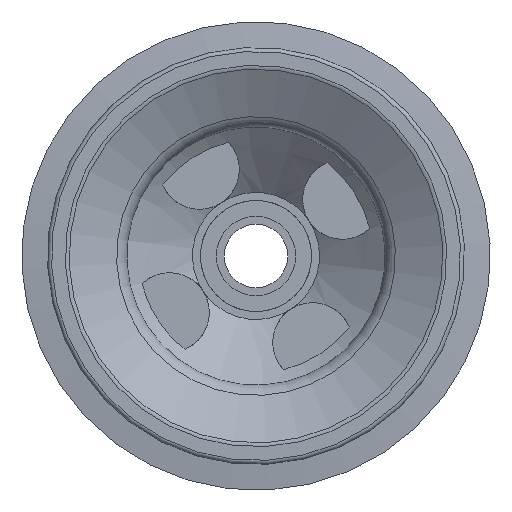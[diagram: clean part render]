
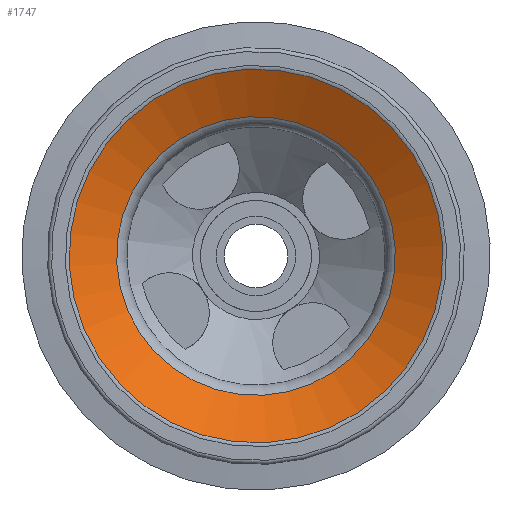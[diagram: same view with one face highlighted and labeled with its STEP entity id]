
A CAD part, front view. The second image highlights one B-rep face of the part: STEP entity #1747.
In plain terms, the highlighted conical face has half-angle 61.212 degrees and reference radius 17.546 mm.
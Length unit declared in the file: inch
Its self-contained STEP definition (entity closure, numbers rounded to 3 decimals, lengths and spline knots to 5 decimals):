
#17 = ORIENTED_EDGE ( 'NONE', *, *, #347, .F. ) ;
#123 = FACE_OUTER_BOUND ( 'NONE', #236, .T. ) ;
#137 = ORIENTED_EDGE ( 'NONE', *, *, #2393, .T. ) ;
#144 = CONICAL_SURFACE ( 'NONE', #1501, 0.69079, 1.068 ) ;
#220 = CIRCLE ( 'NONE', #2169, 0.69079 ) ;
#236 = EDGE_LOOP ( 'NONE', ( #137 ) ) ;
#301 = CARTESIAN_POINT ( 'NONE',  ( 0., 0., 0.13421 ) ) ;
#347 = EDGE_CURVE ( 'NONE', #2126, #2126, #220, .T. ) ;
#541 = FACE_BOUND ( 'NONE', #1393, .T. ) ;
#709 = CARTESIAN_POINT ( 'NONE',  ( 0., 0., 0.13421 ) ) ;
#829 = DIRECTION ( 'NONE',  ( -1., 0., 0. ) ) ;
#856 = AXIS2_PLACEMENT_3D ( 'NONE', #2297, #1440, #1244 ) ;
#1014 = CARTESIAN_POINT ( 'NONE',  ( -0.92618, 0., 0.00487 ) ) ;
#1031 = DIRECTION ( 'NONE',  ( 0., 0., -1. ) ) ;
#1107 = DIRECTION ( 'NONE',  ( 0., 0., -1. ) ) ;
#1244 = DIRECTION ( 'NONE',  ( -1., 0., 0. ) ) ;
#1393 = EDGE_LOOP ( 'NONE', ( #17 ) ) ;
#1440 = DIRECTION ( 'NONE',  ( 0., 0., -1. ) ) ;
#1501 = AXIS2_PLACEMENT_3D ( 'NONE', #301, #1107, #1921 ) ;
#1747 = ADVANCED_FACE ( 'NONE', ( #123, #541 ), #144, .F. ) ;
#1910 = CARTESIAN_POINT ( 'NONE',  ( -0.69079, 0., 0.13421 ) ) ;
#1921 = DIRECTION ( 'NONE',  ( -1., 0., 0. ) ) ;
#2049 = CIRCLE ( 'NONE', #856, 0.92618 ) ;
#2126 = VERTEX_POINT ( 'NONE', #1910 ) ;
#2169 = AXIS2_PLACEMENT_3D ( 'NONE', #709, #1031, #829 ) ;
#2245 = VERTEX_POINT ( 'NONE', #1014 ) ;
#2297 = CARTESIAN_POINT ( 'NONE',  ( 0., 0., 0.00487 ) ) ;
#2393 = EDGE_CURVE ( 'NONE', #2245, #2245, #2049, .T. ) ;
